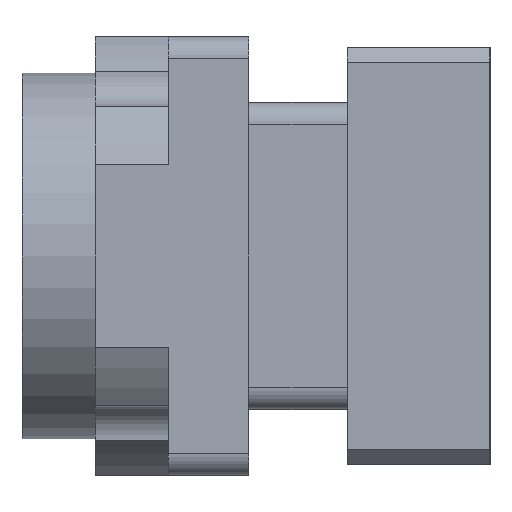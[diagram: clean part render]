
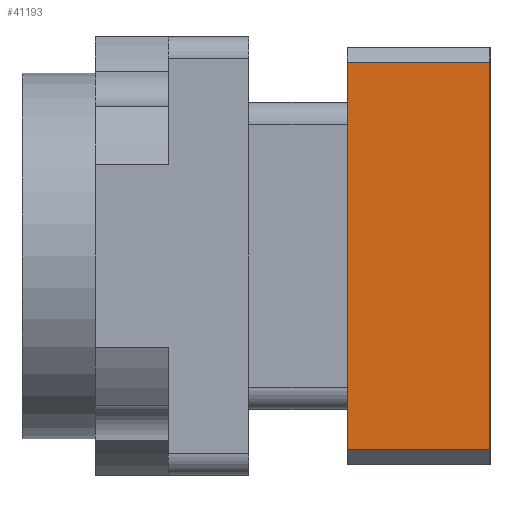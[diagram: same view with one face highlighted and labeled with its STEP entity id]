
A CAD part, left-side view. The second image highlights one B-rep face of the part: STEP entity #41193.
In plain terms, the highlighted planar face has unit normal (-1, 0, 0).
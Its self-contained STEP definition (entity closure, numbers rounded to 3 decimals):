
#25478 = PLANE('',#25479);
#25479 = AXIS2_PLACEMENT_3D('',#25480,#25481,#25482);
#25480 = CARTESIAN_POINT('',(-65.725,-26.553,86.));
#25481 = DIRECTION('',(0.,-1.,0.));
#25482 = DIRECTION('',(0.,-0.,-1.));
#26520 = VERTEX_POINT('',#26521);
#26521 = CARTESIAN_POINT('',(-63.225,-26.553,112.5));
#26535 = PLANE('',#26536);
#26536 = AXIS2_PLACEMENT_3D('',#26537,#26538,#26539);
#26537 = CARTESIAN_POINT('',(-61.225,-26.553,114.5));
#26538 = DIRECTION('',(0.707,0.,-0.707));
#26539 = DIRECTION('',(-0.707,0.,-0.707));
#26688 = VERTEX_POINT('',#26689);
#26689 = CARTESIAN_POINT('',(-63.225,-26.553,59.5));
#26703 = PLANE('',#26704);
#26704 = AXIS2_PLACEMENT_3D('',#26705,#26706,#26707);
#26705 = CARTESIAN_POINT('',(-63.225,-26.553,59.5));
#26706 = DIRECTION('',(0.707,-0.,0.707));
#26707 = DIRECTION('',(0.707,0.,-0.707));
#26715 = EDGE_CURVE('',#26520,#26688,#26716,.T.);
#26716 = SURFACE_CURVE('',#26717,(#26721,#26728),.PCURVE_S1.);
#26717 = LINE('',#26718,#26719);
#26718 = CARTESIAN_POINT('',(-63.225,-26.553,86.));
#26719 = VECTOR('',#26720,1.);
#26720 = DIRECTION('',(0.,-0.,-1.));
#26721 = PCURVE('',#25478,#26722);
#26722 = DEFINITIONAL_REPRESENTATION('',(#26723),#26727);
#26723 = LINE('',#26724,#26725);
#26724 = CARTESIAN_POINT('',(0.,2.5));
#26725 = VECTOR('',#26726,1.);
#26726 = DIRECTION('',(1.,0.));
#26727 = ( GEOMETRIC_REPRESENTATION_CONTEXT(2) 
PARAMETRIC_REPRESENTATION_CONTEXT() REPRESENTATION_CONTEXT('2D SPACE',''
  ) );
#26728 = PCURVE('',#26729,#26734);
#26729 = PLANE('',#26730);
#26730 = AXIS2_PLACEMENT_3D('',#26731,#26732,#26733);
#26731 = CARTESIAN_POINT('',(-63.225,-26.553,57.5));
#26732 = DIRECTION('',(-1.,0.,0.));
#26733 = DIRECTION('',(0.,0.,1.));
#26734 = DEFINITIONAL_REPRESENTATION('',(#26735),#26739);
#26735 = LINE('',#26736,#26737);
#26736 = CARTESIAN_POINT('',(28.5,0.));
#26737 = VECTOR('',#26738,1.);
#26738 = DIRECTION('',(-1.,0.));
#26739 = ( GEOMETRIC_REPRESENTATION_CONTEXT(2) 
PARAMETRIC_REPRESENTATION_CONTEXT() REPRESENTATION_CONTEXT('2D SPACE',''
  ) );
#27667 = EDGE_CURVE('',#27668,#26520,#27670,.T.);
#27668 = VERTEX_POINT('',#27669);
#27669 = CARTESIAN_POINT('',(-63.225,-46.053,112.5));
#27670 = SURFACE_CURVE('',#27671,(#27675,#27682),.PCURVE_S1.);
#27671 = LINE('',#27672,#27673);
#27672 = CARTESIAN_POINT('',(-63.225,-26.553,112.5));
#27673 = VECTOR('',#27674,1.);
#27674 = DIRECTION('',(0.,1.,-0.));
#27675 = PCURVE('',#26535,#27676);
#27676 = DEFINITIONAL_REPRESENTATION('',(#27677),#27681);
#27677 = LINE('',#27678,#27679);
#27678 = CARTESIAN_POINT('',(2.828,0.));
#27679 = VECTOR('',#27680,1.);
#27680 = DIRECTION('',(0.,1.));
#27681 = ( GEOMETRIC_REPRESENTATION_CONTEXT(2) 
PARAMETRIC_REPRESENTATION_CONTEXT() REPRESENTATION_CONTEXT('2D SPACE',''
  ) );
#27682 = PCURVE('',#26729,#27683);
#27683 = DEFINITIONAL_REPRESENTATION('',(#27684),#27688);
#27684 = LINE('',#27685,#27686);
#27685 = CARTESIAN_POINT('',(55.,0.));
#27686 = VECTOR('',#27687,1.);
#27687 = DIRECTION('',(0.,1.));
#27688 = ( GEOMETRIC_REPRESENTATION_CONTEXT(2) 
PARAMETRIC_REPRESENTATION_CONTEXT() REPRESENTATION_CONTEXT('2D SPACE',''
  ) );
#27704 = PLANE('',#27705);
#27705 = AXIS2_PLACEMENT_3D('',#27706,#27707,#27708);
#27706 = CARTESIAN_POINT('',(-52.725,-46.053,104.));
#27707 = DIRECTION('',(0.,-1.,0.));
#27708 = DIRECTION('',(0.,-0.,-1.));
#41148 = EDGE_CURVE('',#26688,#41149,#41151,.T.);
#41149 = VERTEX_POINT('',#41150);
#41150 = CARTESIAN_POINT('',(-63.225,-46.053,59.5));
#41151 = SURFACE_CURVE('',#41152,(#41156,#41163),.PCURVE_S1.);
#41152 = LINE('',#41153,#41154);
#41153 = CARTESIAN_POINT('',(-63.225,-26.553,59.5));
#41154 = VECTOR('',#41155,1.);
#41155 = DIRECTION('',(-0.,-1.,0.));
#41156 = PCURVE('',#26703,#41157);
#41157 = DEFINITIONAL_REPRESENTATION('',(#41158),#41162);
#41158 = LINE('',#41159,#41160);
#41159 = CARTESIAN_POINT('',(0.,0.));
#41160 = VECTOR('',#41161,1.);
#41161 = DIRECTION('',(-0.,-1.));
#41162 = ( GEOMETRIC_REPRESENTATION_CONTEXT(2) 
PARAMETRIC_REPRESENTATION_CONTEXT() REPRESENTATION_CONTEXT('2D SPACE',''
  ) );
#41163 = PCURVE('',#26729,#41164);
#41164 = DEFINITIONAL_REPRESENTATION('',(#41165),#41169);
#41165 = LINE('',#41166,#41167);
#41166 = CARTESIAN_POINT('',(2.,0.));
#41167 = VECTOR('',#41168,1.);
#41168 = DIRECTION('',(0.,-1.));
#41169 = ( GEOMETRIC_REPRESENTATION_CONTEXT(2) 
PARAMETRIC_REPRESENTATION_CONTEXT() REPRESENTATION_CONTEXT('2D SPACE',''
  ) );
#41193 = ADVANCED_FACE('',(#41194),#26729,.T.);
#41194 = FACE_BOUND('',#41195,.T.);
#41195 = EDGE_LOOP('',(#41196,#41217,#41218,#41219));
#41196 = ORIENTED_EDGE('',*,*,#41197,.T.);
#41197 = EDGE_CURVE('',#41149,#27668,#41198,.T.);
#41198 = SURFACE_CURVE('',#41199,(#41203,#41210),.PCURVE_S1.);
#41199 = LINE('',#41200,#41201);
#41200 = CARTESIAN_POINT('',(-63.225,-46.053,57.5));
#41201 = VECTOR('',#41202,1.);
#41202 = DIRECTION('',(0.,0.,1.));
#41203 = PCURVE('',#26729,#41204);
#41204 = DEFINITIONAL_REPRESENTATION('',(#41205),#41209);
#41205 = LINE('',#41206,#41207);
#41206 = CARTESIAN_POINT('',(0.,-19.5));
#41207 = VECTOR('',#41208,1.);
#41208 = DIRECTION('',(1.,0.));
#41209 = ( GEOMETRIC_REPRESENTATION_CONTEXT(2) 
PARAMETRIC_REPRESENTATION_CONTEXT() REPRESENTATION_CONTEXT('2D SPACE',''
  ) );
#41210 = PCURVE('',#27704,#41211);
#41211 = DEFINITIONAL_REPRESENTATION('',(#41212),#41216);
#41212 = LINE('',#41213,#41214);
#41213 = CARTESIAN_POINT('',(46.5,-10.5));
#41214 = VECTOR('',#41215,1.);
#41215 = DIRECTION('',(-1.,0.));
#41216 = ( GEOMETRIC_REPRESENTATION_CONTEXT(2) 
PARAMETRIC_REPRESENTATION_CONTEXT() REPRESENTATION_CONTEXT('2D SPACE',''
  ) );
#41217 = ORIENTED_EDGE('',*,*,#27667,.T.);
#41218 = ORIENTED_EDGE('',*,*,#26715,.T.);
#41219 = ORIENTED_EDGE('',*,*,#41148,.T.);
